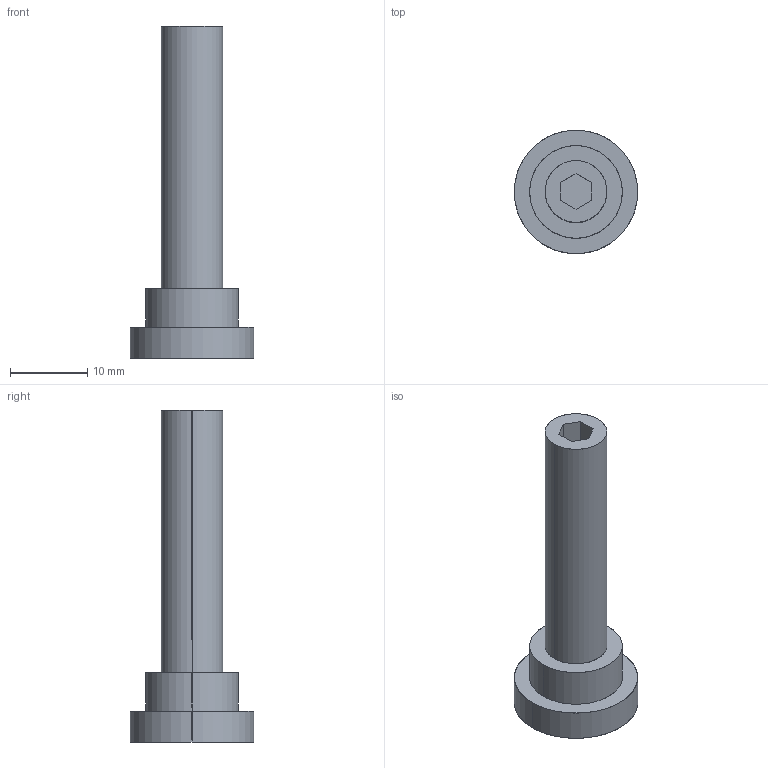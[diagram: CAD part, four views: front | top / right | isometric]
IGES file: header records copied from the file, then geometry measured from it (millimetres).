
Start section: SolidWorks IGES file using analytic representation for surfaces
Global section: file name: X:\11_SW2020-Inv2020\00_全2021-11新製品まで\b\BJ746-08001-SUS\bj746-08001-sus.IGS; native system: SolidWorks 2020; preprocessor: SolidWorks 2020; author: ImaoCorp; date: 211025.091158; units: millimetre
Bounding box: 16 x 16 x 43 mm (x, y, z)
Surface area: 1701.6 mm2 (no closed solid volume)
Topology: 0 solids, 0 shells, 17 faces, 252 edges, 252 vertices
Faces by surface type: bspline 11, revolution 6
